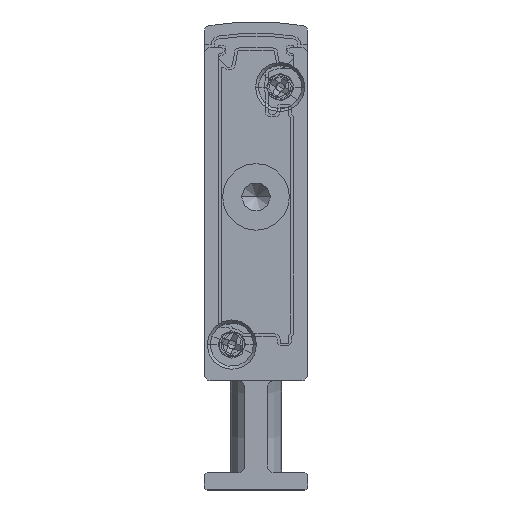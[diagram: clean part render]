
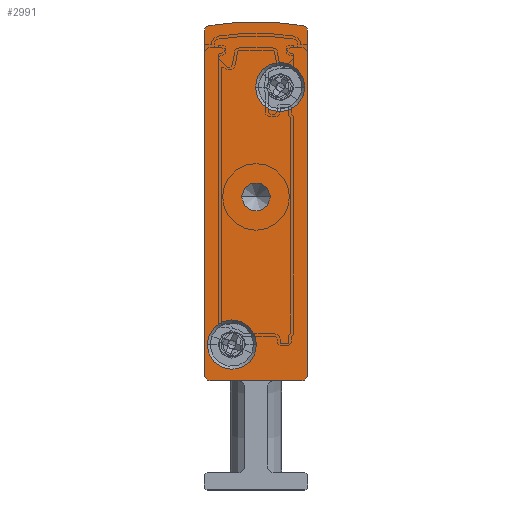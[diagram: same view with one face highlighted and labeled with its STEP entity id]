
A CAD part, front view. The second image highlights one B-rep face of the part: STEP entity #2991.
In plain terms, the highlighted planar face has unit normal (0, -1, 0).
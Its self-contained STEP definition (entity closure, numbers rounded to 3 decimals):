
#195 = CARTESIAN_POINT ( 'NONE',  ( 2.4, -2.5, 12.65 ) ) ;
#291 = ORIENTED_EDGE ( 'NONE', *, *, #2636, .F. ) ;
#403 = DIRECTION ( 'NONE',  ( 0., 0., -1. ) ) ;
#428 = CARTESIAN_POINT ( 'NONE',  ( 8.5, -2.5, 9.5 ) ) ;
#1270 = DIRECTION ( 'NONE',  ( 0., 1., 0. ) ) ;
#1462 = CARTESIAN_POINT ( 'NONE',  ( 8.5, -2.5, 10. ) ) ;
#1527 = VERTEX_POINT ( 'NONE', #13060 ) ;
#1553 = VERTEX_POINT ( 'NONE', #7317 ) ;
#1726 = DIRECTION ( 'NONE',  ( 0., -1., 0. ) ) ;
#1833 = VERTEX_POINT ( 'NONE', #13401 ) ;
#2031 = CIRCLE ( 'NONE', #16899, 0.5 ) ;
#2124 = DIRECTION ( 'NONE',  ( -1., 0., 0. ) ) ;
#2353 = DIRECTION ( 'NONE',  ( 0., 1., 0. ) ) ;
#2367 = AXIS2_PLACEMENT_3D ( 'NONE', #3172, #18279, #10762 ) ;
#2570 = CARTESIAN_POINT ( 'NONE',  ( 9., -2.5, 10. ) ) ;
#2607 = EDGE_CURVE ( 'NONE', #4605, #8772, #14139, .T. ) ;
#2636 = EDGE_CURVE ( 'NONE', #1527, #4025, #12232, .T. ) ;
#2991 = ADVANCED_FACE ( 'NONE', ( #8710, #13887, #18210, #5570 ), #8444, .F. ) ;
#2994 = DIRECTION ( 'NONE',  ( -1., 0., 0. ) ) ;
#3077 = ORIENTED_EDGE ( 'NONE', *, *, #8822, .T. ) ;
#3172 = CARTESIAN_POINT ( 'NONE',  ( 2.4, -2.5, 12.65 ) ) ;
#3213 = AXIS2_PLACEMENT_3D ( 'NONE', #1462, #16700, #2994 ) ;
#3316 = AXIS2_PLACEMENT_3D ( 'NONE', #5557, #7038, #11608 ) ;
#3411 = DIRECTION ( 'NONE',  ( 1., 0., 0. ) ) ;
#3639 = LINE ( 'NONE', #10792, #6030 ) ;
#3668 = CARTESIAN_POINT ( 'NONE',  ( 4.5, -2.5, 25.5 ) ) ;
#3758 = ORIENTED_EDGE ( 'NONE', *, *, #7641, .F. ) ;
#4025 = VERTEX_POINT ( 'NONE', #10788 ) ;
#4301 = EDGE_LOOP ( 'NONE', ( #3077, #8239 ) ) ;
#4427 = ORIENTED_EDGE ( 'NONE', *, *, #7743, .F. ) ;
#4522 = EDGE_LOOP ( 'NONE', ( #17189, #11531 ) ) ;
#4605 = VERTEX_POINT ( 'NONE', #5249 ) ;
#4734 = CIRCLE ( 'NONE', #9634, 2.15 ) ;
#4849 = VECTOR ( 'NONE', #403, 1000. ) ;
#5204 = VERTEX_POINT ( 'NONE', #2570 ) ;
#5249 = CARTESIAN_POINT ( 'NONE',  ( 8.592, -2.5, 40.393 ) ) ;
#5277 = CARTESIAN_POINT ( 'NONE',  ( 0.5, -2.5, 39.902 ) ) ;
#5357 = DIRECTION ( 'NONE',  ( 0., 1., 0. ) ) ;
#5496 = EDGE_CURVE ( 'NONE', #9355, #6641, #12460, .T. ) ;
#5557 = CARTESIAN_POINT ( 'NONE',  ( 8.5, -2.5, 39.902 ) ) ;
#5570 = FACE_BOUND ( 'NONE', #4301, .T. ) ;
#5757 = AXIS2_PLACEMENT_3D ( 'NONE', #5277, #2353, #19079 ) ;
#6030 = VECTOR ( 'NONE', #16697, 1000. ) ;
#6084 = CARTESIAN_POINT ( 'NONE',  ( 6.6, -2.5, 35.05 ) ) ;
#6263 = EDGE_LOOP ( 'NONE', ( #12820, #3758, #291, #12726, #14469, #16708, #15871, #10400 ) ) ;
#6641 = VERTEX_POINT ( 'NONE', #17116 ) ;
#7038 = DIRECTION ( 'NONE',  ( 0., 1., 0. ) ) ;
#7317 = CARTESIAN_POINT ( 'NONE',  ( 3.25, -2.5, 25.5 ) ) ;
#7590 = AXIS2_PLACEMENT_3D ( 'NONE', #10554, #1270, #18202 ) ;
#7621 = CIRCLE ( 'NONE', #13563, 1.25 ) ;
#7641 = EDGE_CURVE ( 'NONE', #4025, #1833, #3639, .T. ) ;
#7743 = EDGE_CURVE ( 'NONE', #6641, #9355, #16472, .T. ) ;
#7827 = CARTESIAN_POINT ( 'NONE',  ( 0.408, -2.5, 40.393 ) ) ;
#8016 = DIRECTION ( 'NONE',  ( -1., 0., 0. ) ) ;
#8210 = VERTEX_POINT ( 'NONE', #7827 ) ;
#8239 = ORIENTED_EDGE ( 'NONE', *, *, #14690, .T. ) ;
#8444 = PLANE ( 'NONE',  #5757 ) ;
#8501 = CIRCLE ( 'NONE', #9336, 2.15 ) ;
#8710 = FACE_BOUND ( 'NONE', #4522, .T. ) ;
#8724 = EDGE_CURVE ( 'NONE', #17450, #14551, #4734, .T. ) ;
#8743 = DIRECTION ( 'NONE',  ( -1., 0., 0. ) ) ;
#8772 = VERTEX_POINT ( 'NONE', #15541 ) ;
#8792 = DIRECTION ( 'NONE',  ( 0., 1., 0. ) ) ;
#8822 = EDGE_CURVE ( 'NONE', #1553, #19099, #7621, .T. ) ;
#9336 = AXIS2_PLACEMENT_3D ( 'NONE', #6084, #12562, #3411 ) ;
#9355 = VERTEX_POINT ( 'NONE', #19082 ) ;
#9593 = CIRCLE ( 'NONE', #18605, 1.25 ) ;
#9634 = AXIS2_PLACEMENT_3D ( 'NONE', #16432, #11822, #13288 ) ;
#9759 = EDGE_CURVE ( 'NONE', #14551, #17450, #8501, .T. ) ;
#10314 = ORIENTED_EDGE ( 'NONE', *, *, #5496, .F. ) ;
#10400 = ORIENTED_EDGE ( 'NONE', *, *, #11230, .F. ) ;
#10410 = CARTESIAN_POINT ( 'NONE',  ( 4.45, -2.5, 35.05 ) ) ;
#10554 = CARTESIAN_POINT ( 'NONE',  ( 4.5, -2.5, 17.092 ) ) ;
#10762 = DIRECTION ( 'NONE',  ( 1., 0., 0. ) ) ;
#10788 = CARTESIAN_POINT ( 'NONE',  ( 0., -2.5, 10. ) ) ;
#10792 = CARTESIAN_POINT ( 'NONE',  ( 0., -2.5, 39.902 ) ) ;
#11004 = DIRECTION ( 'NONE',  ( 0., 1., 0. ) ) ;
#11230 = EDGE_CURVE ( 'NONE', #8210, #4605, #16236, .T. ) ;
#11531 = ORIENTED_EDGE ( 'NONE', *, *, #9759, .F. ) ;
#11608 = DIRECTION ( 'NONE',  ( -1., 0., 0. ) ) ;
#11822 = DIRECTION ( 'NONE',  ( 0., -1., 0. ) ) ;
#12155 = EDGE_CURVE ( 'NONE', #13515, #1527, #19764, .T. ) ;
#12232 = CIRCLE ( 'NONE', #16303, 0.5 ) ;
#12350 = DIRECTION ( 'NONE',  ( 1., 0., 0. ) ) ;
#12460 = CIRCLE ( 'NONE', #2367, 2.15 ) ;
#12562 = DIRECTION ( 'NONE',  ( 0., -1., 0. ) ) ;
#12681 = DIRECTION ( 'NONE',  ( 0., 1., 0. ) ) ;
#12726 = ORIENTED_EDGE ( 'NONE', *, *, #12155, .F. ) ;
#12820 = ORIENTED_EDGE ( 'NONE', *, *, #13725, .F. ) ;
#12869 = DIRECTION ( 'NONE',  ( -1., 0., 0. ) ) ;
#13060 = CARTESIAN_POINT ( 'NONE',  ( 0.5, -2.5, 9.5 ) ) ;
#13288 = DIRECTION ( 'NONE',  ( 1., 0., 0. ) ) ;
#13401 = CARTESIAN_POINT ( 'NONE',  ( 0., -2.5, 39.902 ) ) ;
#13515 = VERTEX_POINT ( 'NONE', #428 ) ;
#13563 = AXIS2_PLACEMENT_3D ( 'NONE', #3668, #12681, #2124 ) ;
#13725 = EDGE_CURVE ( 'NONE', #1833, #8210, #2031, .T. ) ;
#13887 = FACE_BOUND ( 'NONE', #15167, .T. ) ;
#13951 = EDGE_CURVE ( 'NONE', #8772, #5204, #18917, .T. ) ;
#14139 = CIRCLE ( 'NONE', #3316, 0.5 ) ;
#14469 = ORIENTED_EDGE ( 'NONE', *, *, #18730, .F. ) ;
#14551 = VERTEX_POINT ( 'NONE', #10410 ) ;
#14690 = EDGE_CURVE ( 'NONE', #19099, #1553, #9593, .T. ) ;
#14868 = CARTESIAN_POINT ( 'NONE',  ( 0.5, -2.5, 9.5 ) ) ;
#15167 = EDGE_LOOP ( 'NONE', ( #10314, #4427 ) ) ;
#15541 = CARTESIAN_POINT ( 'NONE',  ( 9., -2.5, 39.902 ) ) ;
#15871 = ORIENTED_EDGE ( 'NONE', *, *, #2607, .F. ) ;
#16001 = CARTESIAN_POINT ( 'NONE',  ( 8.75, -2.5, 35.05 ) ) ;
#16083 = AXIS2_PLACEMENT_3D ( 'NONE', #195, #1726, #12350 ) ;
#16236 = CIRCLE ( 'NONE', #7590, 23.658 ) ;
#16251 = DIRECTION ( 'NONE',  ( -1., 0., 0. ) ) ;
#16303 = AXIS2_PLACEMENT_3D ( 'NONE', #17660, #5357, #12869 ) ;
#16432 = CARTESIAN_POINT ( 'NONE',  ( 6.6, -2.5, 35.05 ) ) ;
#16472 = CIRCLE ( 'NONE', #16083, 2.15 ) ;
#16697 = DIRECTION ( 'NONE',  ( 0., 0., 1. ) ) ;
#16700 = DIRECTION ( 'NONE',  ( 0., 1., 0. ) ) ;
#16708 = ORIENTED_EDGE ( 'NONE', *, *, #13951, .F. ) ;
#16899 = AXIS2_PLACEMENT_3D ( 'NONE', #19358, #8792, #16251 ) ;
#17116 = CARTESIAN_POINT ( 'NONE',  ( 0.25, -2.5, 12.65 ) ) ;
#17189 = ORIENTED_EDGE ( 'NONE', *, *, #8724, .F. ) ;
#17288 = CARTESIAN_POINT ( 'NONE',  ( 4.5, -2.5, 25.5 ) ) ;
#17450 = VERTEX_POINT ( 'NONE', #16001 ) ;
#17660 = CARTESIAN_POINT ( 'NONE',  ( 0.5, -2.5, 10. ) ) ;
#17908 = CIRCLE ( 'NONE', #3213, 0.5 ) ;
#18202 = DIRECTION ( 'NONE',  ( -1., 0., 0. ) ) ;
#18210 = FACE_OUTER_BOUND ( 'NONE', #6263, .T. ) ;
#18279 = DIRECTION ( 'NONE',  ( 0., -1., 0. ) ) ;
#18306 = VECTOR ( 'NONE', #8743, 1000. ) ;
#18595 = CARTESIAN_POINT ( 'NONE',  ( 9., -2.5, 39.902 ) ) ;
#18605 = AXIS2_PLACEMENT_3D ( 'NONE', #17288, #11004, #8016 ) ;
#18730 = EDGE_CURVE ( 'NONE', #5204, #13515, #17908, .T. ) ;
#18842 = CARTESIAN_POINT ( 'NONE',  ( 5.75, -2.5, 25.5 ) ) ;
#18917 = LINE ( 'NONE', #18595, #4849 ) ;
#19079 = DIRECTION ( 'NONE',  ( -1., 0., 0. ) ) ;
#19082 = CARTESIAN_POINT ( 'NONE',  ( 4.55, -2.5, 12.65 ) ) ;
#19099 = VERTEX_POINT ( 'NONE', #18842 ) ;
#19358 = CARTESIAN_POINT ( 'NONE',  ( 0.5, -2.5, 39.902 ) ) ;
#19764 = LINE ( 'NONE', #14868, #18306 ) ;
